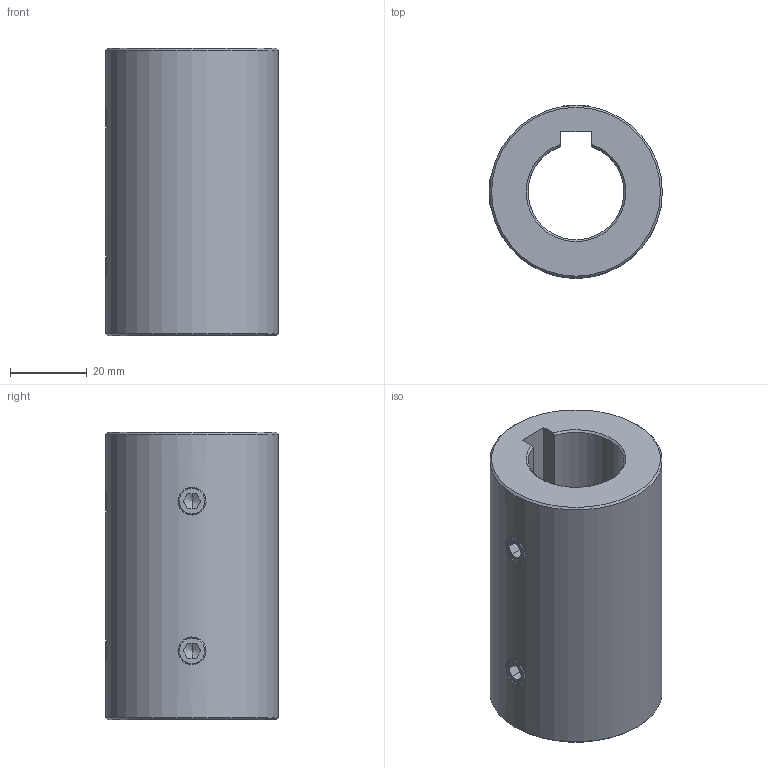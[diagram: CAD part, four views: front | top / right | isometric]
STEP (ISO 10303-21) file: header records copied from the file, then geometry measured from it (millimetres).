
FILE_DESCRIPTION (( 'STEP AP214' ), '1' );
FILE_NAME ('KBST1-VA-N25.STEP', '2025-07-29T07:32:45', ( '' ), ( '' ), 'SwSTEP 2.0', 'SolidWorks 2024', '' );
FILE_SCHEMA (( 'AUTOMOTIVE_DESIGN' ));
Length unit declared in the file: millimetre
Products named in the file (1): KBST1-VA-N25
Bounding box: 45 x 45 x 75 mm (x, y, z)
Volume: 80347.7 mm3; surface area: 20608.6 mm2
Topology: 5 solids, 5 shells, 83 faces, 199 edges, 122 vertices
Faces by surface type: plane 37, cone 28, cylinder 14, bspline 4
Full cylindrical faces by diameter (mm): 6.8 x4, 45 x1
Entity records: 8784 total; most frequent: CARTESIAN_POINT 6064, ORIENTED_EDGE 356, DIRECTION 334, EDGE_CURVE 178, AXIS2_PLACEMENT_3D 122, VERTEX_POINT 120, EDGE_LOOP 108, FACE_OUTER_BOUND 92
